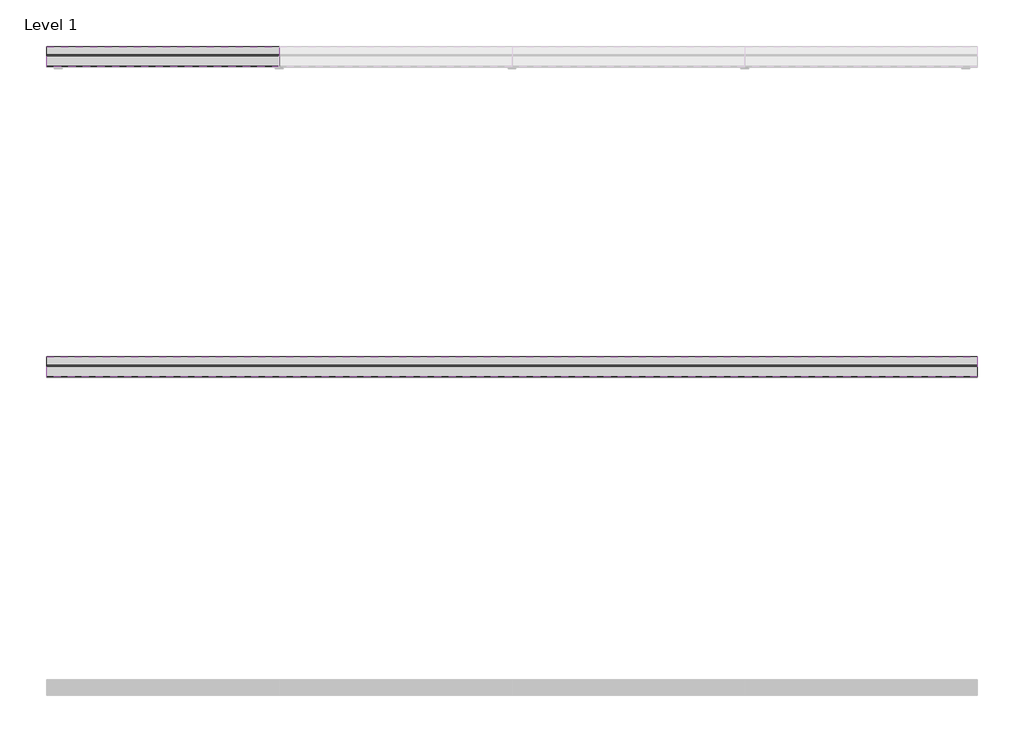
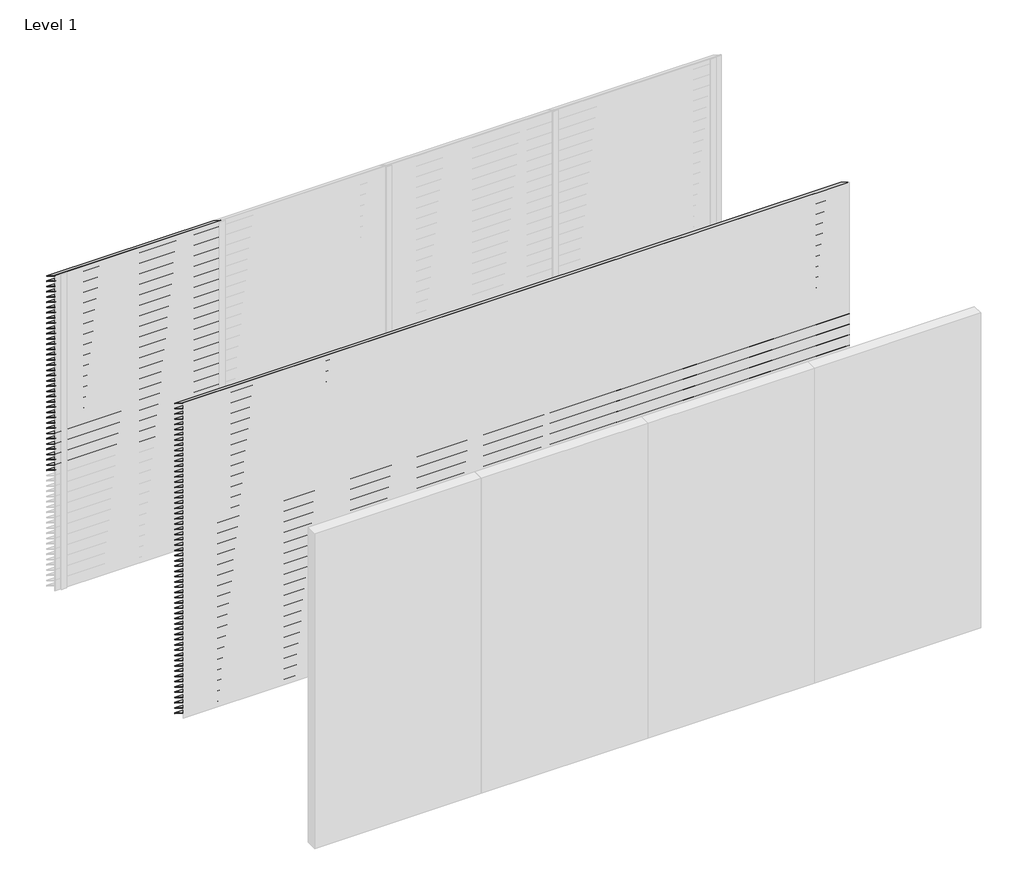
# One storey, part 11 of 13: 98 proxies.
"""IFC4 building model written with IfcOpenShell, lengths in millimetres."""

import ifcopenshell
import ifcopenshell.guid

model = None  # the IFC model being written
_history = None  # IfcOwnerHistory: only IFC2X3 demands one
_inside = {}  # id of a spatial element -> (the spatial element, [elements in it])
_under = {}  # id of a project, library or spatial element -> (it, [spatial elements below it])
_declared = {}  # id of a project -> (the project, [libraries it declares])
_typed = {}  # id of a type object -> (the type object, [elements of that type])
_made_of = {}  # id of a material, layer set ... -> (it, [elements and type objects made of it])


def new_model(schema):
    """Start an empty IFC model of exactly this schema.

    Asked for "IFC4X3", IfcOpenShell would pick the latest addendum, in which some entities
    have other attributes; the version numbers below select the first issue.
    IFC2X3 requires an IfcOwnerHistory on every rooted entity: one is made here for all.
    """
    global model, _history
    if schema == "IFC4X3":
        model = ifcopenshell.file(schema_version=(4, 3, 0, 0))
    else:
        model = ifcopenshell.file(schema=schema)
    _inside.clear()
    _under.clear()
    _declared.clear()
    _typed.clear()
    _made_of.clear()
    _history = None
    if model.schema == "IFC2X3":
        org = make("IfcOrganization", Name="unknown")
        user = make(
            "IfcPersonAndOrganization",
            ThePerson=make("IfcPerson", FamilyName="unknown"),
            TheOrganization=org,
        )
        app = make(
            "IfcApplication",
            ApplicationDeveloper=org,
            Version="unknown",
            ApplicationFullName="unknown",
            ApplicationIdentifier="unknown",
        )
        _history = make(
            "IfcOwnerHistory",
            OwningUser=user,
            OwningApplication=app,
            ChangeAction="ADDED",
            CreationDate=0,
        )
    return model


def make(cls, **values):
    """One entity of the class cls with the attributes given. An attribute that is None is left unset."""
    return model.create_entity(
        cls, **{name: value for name, value in values.items() if value is not None}
    )


def rooted(cls, **values):
    """An entity with a GlobalId (a new one), such as an element, a storey or a relation."""
    return make(cls, GlobalId=ifcopenshell.guid.new(), OwnerHistory=_history, **values)


def si_unit(unit_type, name, prefix=None):
    """IfcSIUnit, for example si_unit("LENGTHUNIT", "METRE", prefix="MILLI")."""
    return make("IfcSIUnit", UnitType=unit_type, Prefix=prefix, Name=name)


def assignment(units):
    """IfcUnitAssignment: the units of a project."""
    return None if units is None else make("IfcUnitAssignment", Units=units)


def point(xyz):
    """IfcCartesianPoint."""
    return None if xyz is None else make("IfcCartesianPoint", Coordinates=xyz)


def direction(xyz):
    """IfcDirection."""
    return None if xyz is None else make("IfcDirection", DirectionRatios=xyz)


def frame(location, z_axis=None, x_axis=None):
    """IfcAxis2Placement3D, a coordinate frame: its origin and axes. An axis left out is left unset."""
    return make(
        "IfcAxis2Placement3D",
        Location=point(location),
        Axis=direction(z_axis),
        RefDirection=direction(x_axis),
    )


def origin():
    """The frame at (0, 0, 0) with its axes left unset."""
    return frame((0.0, 0.0, 0.0))


def place(relative_to, where):
    """IfcLocalPlacement: puts the frame where relative to a parent placement (None: the world)."""
    return make(
        "IfcLocalPlacement", PlacementRelTo=relative_to, RelativePlacement=where
    )


def context(
    kind, dimensions, precision=None, world=None, true_north=None, identifier=None
):
    """IfcGeometricRepresentationContext, for example the 3D "Model" context."""
    return make(
        "IfcGeometricRepresentationContext",
        ContextIdentifier=identifier,
        ContextType=kind,
        CoordinateSpaceDimension=dimensions,
        Precision=precision,
        WorldCoordinateSystem=world,
        TrueNorth=true_north,
    )


def project(units=None, contexts=None):
    """IfcProject with its units and contexts."""
    return rooted(
        "IfcProject",
        Name="project",
        RepresentationContexts=contexts,
        UnitsInContext=assignment(units),
    )


def spatial(cls, under=None, at=None, **own):
    """A site, building, storey or space (cls), placed at a placement, below another one or the project."""
    s = rooted(cls, ObjectPlacement=at, **own)
    if under is not None:
        _under.setdefault(under.id(), (under, []))[1].append(s)
    return s


def polyline(points):
    """IfcPolyline through the points."""
    return make("IfcPolyline", Points=[point(p) for p in points])


def outline(outer, holes=None, kind="AREA"):
    """IfcArbitraryClosedProfileDef: a profile drawn as a closed curve; with holes, ...WithVoids."""
    if holes is None:
        return make("IfcArbitraryClosedProfileDef", ProfileType=kind, OuterCurve=outer)
    return make(
        "IfcArbitraryProfileDefWithVoids",
        ProfileType=kind,
        OuterCurve=outer,
        InnerCurves=holes,
    )


def extrude(swept, where, along, depth):
    """IfcExtrudedAreaSolid: the profile swept, set in the frame where, extruded along a direction by depth."""
    return make(
        "IfcExtrudedAreaSolid",
        SweptArea=swept,
        Position=where,
        ExtrudedDirection=direction(along),
        Depth=depth,
    )


def shape(context_of_items, identifier, shape_type, items):
    """IfcShapeRepresentation: the items that make up one representation, for example the "Body"."""
    return make(
        "IfcShapeRepresentation",
        ContextOfItems=context_of_items,
        RepresentationIdentifier=identifier,
        RepresentationType=shape_type,
        Items=items,
    )


def made_of(thing, what):
    """Note that an element or type object is made of a material, layer set ...; save() writes the relation."""
    if what is not None:
        _made_of.setdefault(what.id(), (what, []))[1].append(thing)
    return thing


def element(
    cls,
    number,
    at=None,
    inside=None,
    cuts=None,
    type_object=None,
    material=None,
    context=None,
    identifier="Body",
    shape_type=None,
    held_by="IfcProductDefinitionShape",
    body=None,
    shapes=None,
    **own,
):
    """One element of the class cls, such as IfcWall. Its Tag is "e" and its number.

    at: its placement. inside: the storey or other place that contains it. cuts: it is an
    opening in that element (IfcRelVoidsElement). A single representation is given by context,
    identifier, shape_type and body (its items); several are given by shapes. held_by: the class
    of the entity that holds the representations. save() writes the other relations.
    """
    e = rooted(cls, Tag="e%d" % number, ObjectPlacement=at, **own)
    if body is not None:
        shapes = [shape(context, identifier, shape_type, body)]
    if shapes is not None:
        e.Representation = make(held_by, Representations=shapes)
    if inside is not None:
        _inside.setdefault(inside.id(), (inside, []))[1].append(e)
    if cuts is not None:
        rooted(
            "IfcRelVoidsElement", RelatingBuildingElement=cuts, RelatedOpeningElement=e
        )
    if type_object is not None:
        _typed.setdefault(type_object.id(), (type_object, []))[1].append(e)
    return made_of(e, material)


def aggregate(whole, parts):
    """IfcRelAggregates: a whole, such as a stair, and the parts it consists of."""
    return rooted("IfcRelAggregates", RelatingObject=whole, RelatedObjects=parts)


def save(model, path):
    """Write the relations noted so far, then the file.

    IfcRelAggregates (storeys below a building ...), IfcRelContainedInSpatialStructure (elements
    in a storey), IfcRelDefinesByType, IfcRelAssociatesMaterial and IfcRelDeclares: one each for
    every whole, place, type object, material and project.
    """
    for whole, parts in _under.values():
        aggregate(whole, parts)
    for where, things in _inside.values():
        rooted(
            "IfcRelContainedInSpatialStructure",
            RelatedElements=things,
            RelatingStructure=where,
        )
    for kind, things in _typed.values():
        rooted("IfcRelDefinesByType", RelatedObjects=things, RelatingType=kind)
    for what, things in _made_of.values():
        rooted("IfcRelAssociatesMaterial", RelatedObjects=things, RelatingMaterial=what)
    for by, libraries in _declared.values():
        rooted("IfcRelDeclares", RelatingContext=by, RelatedDefinitions=libraries)
    model.write(path)


model = new_model("IFC4")

# Units and contexts
model_context = context("Model", 3, world=origin())
ifc_project = project(units=[si_unit("LENGTHUNIT", "METRE", prefix="MILLI")], contexts=[model_context])

# Site, building, storey
site = spatial("IfcSite", under=ifc_project)
building = spatial("IfcBuilding", under=site)
storey = spatial("IfcBuildingStorey", under=building, Name="Level 1", Elevation=0.0)

# Proxies
placement = place(None, origin())
element("IfcBuildingElementProxy", 1, Name="Wall Sweeps", at=placement, inside=storey, context=model_context, shape_type="SweptSolid", body=[
    extrude(outline(polyline([(5.0, 3000.0), (5.0, 2998.0), (132.0, 2919.0), (132.0, 2913.0), (3.0, 2993.2440945), (3.0, 3000.0), (5.0, 3000.0)])), frame((0.0, 0.0, 0.0), z_axis=(1.0, 0.0, 0.0), x_axis=(0.0, 1.0, 0.0)), (0.0, 0.0, 1.0), 1500.0),
])
element("IfcBuildingElementProxy", 2, Name="Wall Sweeps", at=placement, inside=storey, context=model_context, shape_type="SweptSolid", body=[
    extrude(outline(polyline([(5.0, 2950.0), (5.0, 2948.0), (132.0, 2869.0), (132.0, 2863.0), (3.0, 2943.2440945), (3.0, 2950.0), (5.0, 2950.0)])), frame((0.0, 0.0, 0.0), z_axis=(1.0, 0.0, 0.0), x_axis=(0.0, 1.0, 0.0)), (0.0, 0.0, 1.0), 1500.0),
])
element("IfcBuildingElementProxy", 3, Name="Wall Sweeps", at=placement, inside=storey, context=model_context, shape_type="SweptSolid", body=[
    extrude(outline(polyline([(5.0, 2900.0), (5.0, 2898.0), (132.0, 2819.0), (132.0, 2813.0), (3.0, 2893.2440945), (3.0, 2900.0), (5.0, 2900.0)])), frame((0.0, 0.0, 0.0), z_axis=(1.0, 0.0, 0.0), x_axis=(0.0, 1.0, 0.0)), (0.0, 0.0, 1.0), 1500.0),
])
element("IfcBuildingElementProxy", 4, Name="Wall Sweeps", at=placement, inside=storey, context=model_context, shape_type="SweptSolid", body=[
    extrude(outline(polyline([(5.0, 2850.0), (5.0, 2848.0), (132.0, 2769.0), (132.0, 2763.0), (3.0, 2843.2440945), (3.0, 2850.0), (5.0, 2850.0)])), frame((0.0, 0.0, 0.0), z_axis=(1.0, 0.0, 0.0), x_axis=(0.0, 1.0, 0.0)), (0.0, 0.0, 1.0), 1500.0),
])
element("IfcBuildingElementProxy", 5, Name="Wall Sweeps", at=placement, inside=storey, context=model_context, shape_type="SweptSolid", body=[
    extrude(outline(polyline([(5.0, 2800.0), (5.0, 2798.0), (132.0, 2719.0), (132.0, 2713.0), (3.0, 2793.2440945), (3.0, 2800.0), (5.0, 2800.0)])), frame((0.0, 0.0, 0.0), z_axis=(1.0, 0.0, 0.0), x_axis=(0.0, 1.0, 0.0)), (0.0, 0.0, 1.0), 1500.0),
])
element("IfcBuildingElementProxy", 6, Name="Wall Sweeps", at=placement, inside=storey, context=model_context, shape_type="SweptSolid", body=[
    extrude(outline(polyline([(5.0, 2750.0), (5.0, 2748.0), (132.0, 2669.0), (132.0, 2663.0), (3.0, 2743.2440945), (3.0, 2750.0), (5.0, 2750.0)])), frame((0.0, 0.0, 0.0), z_axis=(1.0, 0.0, 0.0), x_axis=(0.0, 1.0, 0.0)), (0.0, 0.0, 1.0), 1500.0),
])
element("IfcBuildingElementProxy", 7, Name="Wall Sweeps", at=placement, inside=storey, context=model_context, shape_type="SweptSolid", body=[
    extrude(outline(polyline([(5.0, 2700.0), (5.0, 2698.0), (132.0, 2619.0), (132.0, 2613.0), (3.0, 2693.2440945), (3.0, 2700.0), (5.0, 2700.0)])), frame((0.0, 0.0, 0.0), z_axis=(1.0, 0.0, 0.0), x_axis=(0.0, 1.0, 0.0)), (0.0, 0.0, 1.0), 1500.0),
])
element("IfcBuildingElementProxy", 8, Name="Wall Sweeps", at=placement, inside=storey, context=model_context, shape_type="SweptSolid", body=[
    extrude(outline(polyline([(5.0, 2650.0), (5.0, 2648.0), (132.0, 2569.0), (132.0, 2563.0), (3.0, 2643.2440945), (3.0, 2650.0), (5.0, 2650.0)])), frame((0.0, 0.0, 0.0), z_axis=(1.0, 0.0, 0.0), x_axis=(0.0, 1.0, 0.0)), (0.0, 0.0, 1.0), 1500.0),
])
element("IfcBuildingElementProxy", 9, Name="Wall Sweeps", at=placement, inside=storey, context=model_context, shape_type="SweptSolid", body=[
    extrude(outline(polyline([(5.0, 2600.0), (5.0, 2598.0), (132.0, 2519.0), (132.0, 2513.0), (3.0, 2593.2440945), (3.0, 2600.0), (5.0, 2600.0)])), frame((0.0, 0.0, 0.0), z_axis=(1.0, 0.0, 0.0), x_axis=(0.0, 1.0, 0.0)), (0.0, 0.0, 1.0), 1500.0),
])
element("IfcBuildingElementProxy", 10, Name="Wall Sweeps", at=placement, inside=storey, context=model_context, shape_type="SweptSolid", body=[
    extrude(outline(polyline([(5.0, 2550.0), (5.0, 2548.0), (132.0, 2469.0), (132.0, 2463.0), (3.0, 2543.2440945), (3.0, 2550.0), (5.0, 2550.0)])), frame((0.0, 0.0, 0.0), z_axis=(1.0, 0.0, 0.0), x_axis=(0.0, 1.0, 0.0)), (0.0, 0.0, 1.0), 1500.0),
])
element("IfcBuildingElementProxy", 11, Name="Wall Sweeps", at=placement, inside=storey, context=model_context, shape_type="SweptSolid", body=[
    extrude(outline(polyline([(5.0, 2500.0), (5.0, 2498.0), (132.0, 2419.0), (132.0, 2413.0), (3.0, 2493.2440945), (3.0, 2500.0), (5.0, 2500.0)])), frame((0.0, 0.0, 0.0), z_axis=(1.0, 0.0, 0.0), x_axis=(0.0, 1.0, 0.0)), (0.0, 0.0, 1.0), 1500.0),
])
element("IfcBuildingElementProxy", 12, Name="Wall Sweeps", at=placement, inside=storey, context=model_context, shape_type="SweptSolid", body=[
    extrude(outline(polyline([(5.0, 2450.0), (5.0, 2448.0), (132.0, 2369.0), (132.0, 2363.0), (3.0, 2443.2440945), (3.0, 2450.0), (5.0, 2450.0)])), frame((0.0, 0.0, 0.0), z_axis=(1.0, 0.0, 0.0), x_axis=(0.0, 1.0, 0.0)), (0.0, 0.0, 1.0), 1500.0),
])
element("IfcBuildingElementProxy", 13, Name="Wall Sweeps", at=placement, inside=storey, context=model_context, shape_type="SweptSolid", body=[
    extrude(outline(polyline([(5.0, 2400.0), (5.0, 2398.0), (132.0, 2319.0), (132.0, 2313.0), (3.0, 2393.2440945), (3.0, 2400.0), (5.0, 2400.0)])), frame((0.0, 0.0, 0.0), z_axis=(1.0, 0.0, 0.0), x_axis=(0.0, 1.0, 0.0)), (0.0, 0.0, 1.0), 1500.0),
])
element("IfcBuildingElementProxy", 14, Name="Wall Sweeps", at=placement, inside=storey, context=model_context, shape_type="SweptSolid", body=[
    extrude(outline(polyline([(5.0, 2350.0), (5.0, 2348.0), (132.0, 2269.0), (132.0, 2263.0), (3.0, 2343.2440945), (3.0, 2350.0), (5.0, 2350.0)])), frame((0.0, 0.0, 0.0), z_axis=(1.0, 0.0, 0.0), x_axis=(0.0, 1.0, 0.0)), (0.0, 0.0, 1.0), 1500.0),
])
element("IfcBuildingElementProxy", 15, Name="Wall Sweeps", at=placement, inside=storey, context=model_context, shape_type="SweptSolid", body=[
    extrude(outline(polyline([(5.0, 2300.0), (5.0, 2298.0), (132.0, 2219.0), (132.0, 2213.0), (3.0, 2293.2440945), (3.0, 2300.0), (5.0, 2300.0)])), frame((0.0, 0.0, 0.0), z_axis=(1.0, 0.0, 0.0), x_axis=(0.0, 1.0, 0.0)), (0.0, 0.0, 1.0), 1500.0),
])
element("IfcBuildingElementProxy", 16, Name="Wall Sweeps", at=placement, inside=storey, context=model_context, shape_type="SweptSolid", body=[
    extrude(outline(polyline([(5.0, 2250.0), (5.0, 2248.0), (132.0, 2169.0), (132.0, 2163.0), (3.0, 2243.2440945), (3.0, 2250.0), (5.0, 2250.0)])), frame((0.0, 0.0, 0.0), z_axis=(1.0, 0.0, 0.0), x_axis=(0.0, 1.0, 0.0)), (0.0, 0.0, 1.0), 1500.0),
])
element("IfcBuildingElementProxy", 17, Name="Wall Sweeps", at=placement, inside=storey, context=model_context, shape_type="SweptSolid", body=[
    extrude(outline(polyline([(5.0, 2200.0), (5.0, 2198.0), (132.0, 2119.0), (132.0, 2113.0), (3.0, 2193.2440945), (3.0, 2200.0), (5.0, 2200.0)])), frame((0.0, 0.0, 0.0), z_axis=(1.0, 0.0, 0.0), x_axis=(0.0, 1.0, 0.0)), (0.0, 0.0, 1.0), 1500.0),
])
element("IfcBuildingElementProxy", 18, Name="Wall Sweeps", at=placement, inside=storey, context=model_context, shape_type="SweptSolid", body=[
    extrude(outline(polyline([(5.0, 2150.0), (5.0, 2148.0), (132.0, 2069.0), (132.0, 2063.0), (3.0, 2143.2440945), (3.0, 2150.0), (5.0, 2150.0)])), frame((0.0, 0.0, 0.0), z_axis=(1.0, 0.0, 0.0), x_axis=(0.0, 1.0, 0.0)), (0.0, 0.0, 1.0), 1500.0),
])
element("IfcBuildingElementProxy", 19, Name="Wall Sweeps", at=placement, inside=storey, context=model_context, shape_type="SweptSolid", body=[
    extrude(outline(polyline([(5.0, 2100.0), (5.0, 2098.0), (132.0, 2019.0), (132.0, 2013.0), (3.0, 2093.2440945), (3.0, 2100.0), (5.0, 2100.0)])), frame((0.0, 0.0, 0.0), z_axis=(1.0, 0.0, 0.0), x_axis=(0.0, 1.0, 0.0)), (0.0, 0.0, 1.0), 1500.0),
])
element("IfcBuildingElementProxy", 20, Name="Wall Sweeps", at=placement, inside=storey, context=model_context, shape_type="SweptSolid", body=[
    extrude(outline(polyline([(5.0, 2050.0), (5.0, 2048.0), (132.0, 1969.0), (132.0, 1963.0), (3.0, 2043.2440945), (3.0, 2050.0), (5.0, 2050.0)])), frame((0.0, 0.0, 0.0), z_axis=(1.0, 0.0, 0.0), x_axis=(0.0, 1.0, 0.0)), (0.0, 0.0, 1.0), 1500.0),
])
element("IfcBuildingElementProxy", 21, Name="Wall Sweeps", at=placement, inside=storey, context=model_context, shape_type="SweptSolid", body=[
    extrude(outline(polyline([(5.0, 2000.0), (5.0, 1998.0), (132.0, 1919.0), (132.0, 1913.0), (3.0, 1993.2440945), (3.0, 2000.0), (5.0, 2000.0)])), frame((0.0, 0.0, 0.0), z_axis=(1.0, 0.0, 0.0), x_axis=(0.0, 1.0, 0.0)), (0.0, 0.0, 1.0), 1500.0),
])
element("IfcBuildingElementProxy", 22, Name="Wall Sweeps", at=placement, inside=storey, context=model_context, shape_type="SweptSolid", body=[
    extrude(outline(polyline([(5.0, 1950.0), (5.0, 1948.0), (132.0, 1869.0), (132.0, 1863.0), (3.0, 1943.2440945), (3.0, 1950.0), (5.0, 1950.0)])), frame((0.0, 0.0, 0.0), z_axis=(1.0, 0.0, 0.0), x_axis=(0.0, 1.0, 0.0)), (0.0, 0.0, 1.0), 1500.0),
])
element("IfcBuildingElementProxy", 23, Name="Wall Sweeps", at=placement, inside=storey, context=model_context, shape_type="SweptSolid", body=[
    extrude(outline(polyline([(5.0, 1900.0), (5.0, 1898.0), (132.0, 1819.0), (132.0, 1813.0), (3.0, 1893.2440945), (3.0, 1900.0), (5.0, 1900.0)])), frame((0.0, 0.0, 0.0), z_axis=(1.0, 0.0, 0.0), x_axis=(0.0, 1.0, 0.0)), (0.0, 0.0, 1.0), 1500.0),
])
element("IfcBuildingElementProxy", 24, Name="Wall Sweeps", at=placement, inside=storey, context=model_context, shape_type="SweptSolid", body=[
    extrude(outline(polyline([(5.0, 1850.0), (5.0, 1848.0), (132.0, 1769.0), (132.0, 1763.0), (3.0, 1843.2440945), (3.0, 1850.0), (5.0, 1850.0)])), frame((0.0, 0.0, 0.0), z_axis=(1.0, 0.0, 0.0), x_axis=(0.0, 1.0, 0.0)), (0.0, 0.0, 1.0), 1500.0),
])
element("IfcBuildingElementProxy", 25, Name="Wall Sweeps", at=placement, inside=storey, context=model_context, shape_type="SweptSolid", body=[
    extrude(outline(polyline([(5.0, 1800.0), (5.0, 1798.0), (132.0, 1719.0), (132.0, 1713.0), (3.0, 1793.2440945), (3.0, 1800.0), (5.0, 1800.0)])), frame((0.0, 0.0, 0.0), z_axis=(1.0, 0.0, 0.0), x_axis=(0.0, 1.0, 0.0)), (0.0, 0.0, 1.0), 1500.0),
])
element("IfcBuildingElementProxy", 26, Name="Wall Sweeps", at=placement, inside=storey, context=model_context, shape_type="SweptSolid", body=[
    extrude(outline(polyline([(5.0, 1750.0), (5.0, 1748.0), (132.0, 1669.0), (132.0, 1663.0), (3.0, 1743.2440945), (3.0, 1750.0), (5.0, 1750.0)])), frame((0.0, 0.0, 0.0), z_axis=(1.0, 0.0, 0.0), x_axis=(0.0, 1.0, 0.0)), (0.0, 0.0, 1.0), 1500.0),
])
element("IfcBuildingElementProxy", 27, Name="Wall Sweeps", at=placement, inside=storey, context=model_context, shape_type="SweptSolid", body=[
    extrude(outline(polyline([(5.0, 1700.0), (5.0, 1698.0), (132.0, 1619.0), (132.0, 1613.0), (3.0, 1693.2440945), (3.0, 1700.0), (5.0, 1700.0)])), frame((0.0, 0.0, 0.0), z_axis=(1.0, 0.0, 0.0), x_axis=(0.0, 1.0, 0.0)), (0.0, 0.0, 1.0), 1500.0),
])
element("IfcBuildingElementProxy", 28, Name="Wall Sweeps", at=placement, inside=storey, context=model_context, shape_type="SweptSolid", body=[
    extrude(outline(polyline([(5.0, 1650.0), (5.0, 1648.0), (132.0, 1569.0), (132.0, 1563.0), (3.0, 1643.2440945), (3.0, 1650.0), (5.0, 1650.0)])), frame((0.0, 0.0, 0.0), z_axis=(1.0, 0.0, 0.0), x_axis=(0.0, 1.0, 0.0)), (0.0, 0.0, 1.0), 1500.0),
])
element("IfcBuildingElementProxy", 29, Name="Wall Sweeps", at=placement, inside=storey, context=model_context, shape_type="SweptSolid", body=[
    extrude(outline(polyline([(5.0, 1600.0), (5.0, 1598.0), (132.0, 1519.0), (132.0, 1513.0), (3.0, 1593.2440945), (3.0, 1600.0), (5.0, 1600.0)])), frame((0.0, 0.0, 0.0), z_axis=(1.0, 0.0, 0.0), x_axis=(0.0, 1.0, 0.0)), (0.0, 0.0, 1.0), 1500.0),
])
element("IfcBuildingElementProxy", 30, Name="Wall Sweeps", at=placement, inside=storey, context=model_context, shape_type="SweptSolid", body=[
    extrude(outline(polyline([(5.0, 1550.0), (5.0, 1548.0), (132.0, 1469.0), (132.0, 1463.0), (3.0, 1543.2440945), (3.0, 1550.0), (5.0, 1550.0)])), frame((0.0, 0.0, 0.0), z_axis=(1.0, 0.0, 0.0), x_axis=(0.0, 1.0, 0.0)), (0.0, 0.0, 1.0), 1500.0),
])
element("IfcBuildingElementProxy", 31, Name="Wall Sweeps", at=placement, inside=storey, context=model_context, shape_type="SweptSolid", body=[
    extrude(outline(polyline([(5.0, 1500.0), (5.0, 1498.0), (132.0, 1419.0), (132.0, 1413.0), (3.0, 1493.2440945), (3.0, 1500.0), (5.0, 1500.0)])), frame((0.0, 0.0, 0.0), z_axis=(1.0, 0.0, 0.0), x_axis=(0.0, 1.0, 0.0)), (0.0, 0.0, 1.0), 1500.0),
])
element("IfcBuildingElementProxy", 32, Name="Wall Sweeps", at=placement, inside=storey, context=model_context, shape_type="SweptSolid", body=[
    extrude(outline(polyline([(5.0, 1450.0), (5.0, 1448.0), (132.0, 1369.0), (132.0, 1363.0), (3.0, 1443.2440945), (3.0, 1450.0), (5.0, 1450.0)])), frame((0.0, 0.0, 0.0), z_axis=(1.0, 0.0, 0.0), x_axis=(0.0, 1.0, 0.0)), (0.0, 0.0, 1.0), 1500.0),
])
element("IfcBuildingElementProxy", 33, Name="Wall Sweeps", at=placement, inside=storey, context=model_context, shape_type="SweptSolid", body=[
    extrude(outline(polyline([(5.0, 1400.0), (5.0, 1398.0), (132.0, 1319.0), (132.0, 1313.0), (3.0, 1393.2440945), (3.0, 1400.0), (5.0, 1400.0)])), frame((0.0, 0.0, 0.0), z_axis=(1.0, 0.0, 0.0), x_axis=(0.0, 1.0, 0.0)), (0.0, 0.0, 1.0), 1500.0),
])
element("IfcBuildingElementProxy", 34, Name="Wall Sweeps", at=placement, inside=storey, context=model_context, shape_type="SweptSolid", body=[
    extrude(outline(polyline([(5.0, 1350.0), (5.0, 1348.0), (132.0, 1269.0), (132.0, 1263.0), (3.0, 1343.2440945), (3.0, 1350.0), (5.0, 1350.0)])), frame((0.0, 0.0, 0.0), z_axis=(1.0, 0.0, 0.0), x_axis=(0.0, 1.0, 0.0)), (0.0, 0.0, 1.0), 1500.0),
])
element("IfcBuildingElementProxy", 35, Name="Wall Sweeps", at=placement, inside=storey, context=model_context, shape_type="SweptSolid", body=[
    extrude(outline(polyline([(5.0, 1300.0), (5.0, 1298.0), (132.0, 1219.0), (132.0, 1213.0), (3.0, 1293.2440945), (3.0, 1300.0), (5.0, 1300.0)])), frame((0.0, 0.0, 0.0), z_axis=(1.0, 0.0, 0.0), x_axis=(0.0, 1.0, 0.0)), (0.0, 0.0, 1.0), 1500.0),
])
element("IfcBuildingElementProxy", 36, Name="Wall Sweeps", at=placement, inside=storey, context=model_context, shape_type="SweptSolid", body=[
    extrude(outline(polyline([(5.0, 1250.0), (5.0, 1248.0), (132.0, 1169.0), (132.0, 1163.0), (3.0, 1243.2440945), (3.0, 1250.0), (5.0, 1250.0)])), frame((0.0, 0.0, 0.0), z_axis=(1.0, 0.0, 0.0), x_axis=(0.0, 1.0, 0.0)), (0.0, 0.0, 1.0), 1500.0),
])
element("IfcBuildingElementProxy", 37, Name="Wall Sweeps", at=placement, inside=storey, context=model_context, shape_type="SweptSolid", body=[
    extrude(outline(polyline([(5.0, 1200.0), (5.0, 1198.0), (132.0, 1119.0), (132.0, 1113.0), (3.0, 1193.2440945), (3.0, 1200.0), (5.0, 1200.0)])), frame((0.0, 0.0, 0.0), z_axis=(1.0, 0.0, 0.0), x_axis=(0.0, 1.0, 0.0)), (0.0, 0.0, 1.0), 1500.0),
])
element("IfcBuildingElementProxy", 38, Name="Wall Sweeps", at=placement, inside=storey, context=model_context, shape_type="SweptSolid", body=[
    extrude(outline(polyline([(5.0, 1150.0), (5.0, 1148.0), (132.0, 1069.0), (132.0, 1063.0), (3.0, 1143.2440945), (3.0, 1150.0), (5.0, 1150.0)])), frame((0.0, 0.0, 0.0), z_axis=(1.0, 0.0, 0.0), x_axis=(0.0, 1.0, 0.0)), (0.0, 0.0, 1.0), 1500.0),
])
element("IfcBuildingElementProxy", 39, Name="Wall Sweeps", at=placement, inside=storey, context=model_context, shape_type="SweptSolid", body=[
    extrude(outline(polyline([(-1995.0, 3000.0), (-1995.0, 2998.0), (-1868.0, 2919.0), (-1868.0, 2913.0), (-1997.0, 2993.2440945), (-1997.0, 3000.0), (-1995.0, 3000.0)])), frame((0.0, 0.0, 0.0), z_axis=(1.0, 0.0, 0.0), x_axis=(0.0, 1.0, 0.0)), (0.0, 0.0, 1.0), 6000.0),
])
element("IfcBuildingElementProxy", 40, Name="Wall Sweeps", at=placement, inside=storey, context=model_context, shape_type="SweptSolid", body=[
    extrude(outline(polyline([(-1995.0, 2950.0), (-1995.0, 2948.0), (-1868.0, 2869.0), (-1868.0, 2863.0), (-1997.0, 2943.2440945), (-1997.0, 2950.0), (-1995.0, 2950.0)])), frame((0.0, 0.0, 0.0), z_axis=(1.0, 0.0, 0.0), x_axis=(0.0, 1.0, 0.0)), (0.0, 0.0, 1.0), 6000.0),
])
element("IfcBuildingElementProxy", 41, Name="Wall Sweeps", at=placement, inside=storey, context=model_context, shape_type="SweptSolid", body=[
    extrude(outline(polyline([(-1995.0, 2900.0), (-1995.0, 2898.0), (-1868.0, 2819.0), (-1868.0, 2813.0), (-1997.0, 2893.2440945), (-1997.0, 2900.0), (-1995.0, 2900.0)])), frame((0.0, 0.0, 0.0), z_axis=(1.0, 0.0, 0.0), x_axis=(0.0, 1.0, 0.0)), (0.0, 0.0, 1.0), 6000.0),
])
element("IfcBuildingElementProxy", 42, Name="Wall Sweeps", at=placement, inside=storey, context=model_context, shape_type="SweptSolid", body=[
    extrude(outline(polyline([(-1995.0, 2850.0), (-1995.0, 2848.0), (-1868.0, 2769.0), (-1868.0, 2763.0), (-1997.0, 2843.2440945), (-1997.0, 2850.0), (-1995.0, 2850.0)])), frame((0.0, 0.0, 0.0), z_axis=(1.0, 0.0, 0.0), x_axis=(0.0, 1.0, 0.0)), (0.0, 0.0, 1.0), 6000.0),
])
element("IfcBuildingElementProxy", 43, Name="Wall Sweeps", at=placement, inside=storey, context=model_context, shape_type="SweptSolid", body=[
    extrude(outline(polyline([(-1995.0, 2800.0), (-1995.0, 2798.0), (-1868.0, 2719.0), (-1868.0, 2713.0), (-1997.0, 2793.2440945), (-1997.0, 2800.0), (-1995.0, 2800.0)])), frame((0.0, 0.0, 0.0), z_axis=(1.0, 0.0, 0.0), x_axis=(0.0, 1.0, 0.0)), (0.0, 0.0, 1.0), 6000.0),
])
element("IfcBuildingElementProxy", 44, Name="Wall Sweeps", at=placement, inside=storey, context=model_context, shape_type="SweptSolid", body=[
    extrude(outline(polyline([(-1995.0, 2750.0), (-1995.0, 2748.0), (-1868.0, 2669.0), (-1868.0, 2663.0), (-1997.0, 2743.2440945), (-1997.0, 2750.0), (-1995.0, 2750.0)])), frame((0.0, 0.0, 0.0), z_axis=(1.0, 0.0, 0.0), x_axis=(0.0, 1.0, 0.0)), (0.0, 0.0, 1.0), 6000.0),
])
element("IfcBuildingElementProxy", 45, Name="Wall Sweeps", at=placement, inside=storey, context=model_context, shape_type="SweptSolid", body=[
    extrude(outline(polyline([(-1995.0, 2700.0), (-1995.0, 2698.0), (-1868.0, 2619.0), (-1868.0, 2613.0), (-1997.0, 2693.2440945), (-1997.0, 2700.0), (-1995.0, 2700.0)])), frame((0.0, 0.0, 0.0), z_axis=(1.0, 0.0, 0.0), x_axis=(0.0, 1.0, 0.0)), (0.0, 0.0, 1.0), 6000.0),
])
element("IfcBuildingElementProxy", 46, Name="Wall Sweeps", at=placement, inside=storey, context=model_context, shape_type="SweptSolid", body=[
    extrude(outline(polyline([(-1995.0, 2650.0), (-1995.0, 2648.0), (-1868.0, 2569.0), (-1868.0, 2563.0), (-1997.0, 2643.2440945), (-1997.0, 2650.0), (-1995.0, 2650.0)])), frame((0.0, 0.0, 0.0), z_axis=(1.0, 0.0, 0.0), x_axis=(0.0, 1.0, 0.0)), (0.0, 0.0, 1.0), 6000.0),
])
element("IfcBuildingElementProxy", 47, Name="Wall Sweeps", at=placement, inside=storey, context=model_context, shape_type="SweptSolid", body=[
    extrude(outline(polyline([(-1995.0, 2600.0), (-1995.0, 2598.0), (-1868.0, 2519.0), (-1868.0, 2513.0), (-1997.0, 2593.2440945), (-1997.0, 2600.0), (-1995.0, 2600.0)])), frame((0.0, 0.0, 0.0), z_axis=(1.0, 0.0, 0.0), x_axis=(0.0, 1.0, 0.0)), (0.0, 0.0, 1.0), 6000.0),
])
element("IfcBuildingElementProxy", 48, Name="Wall Sweeps", at=placement, inside=storey, context=model_context, shape_type="SweptSolid", body=[
    extrude(outline(polyline([(-1995.0, 2550.0), (-1995.0, 2548.0), (-1868.0, 2469.0), (-1868.0, 2463.0), (-1997.0, 2543.2440945), (-1997.0, 2550.0), (-1995.0, 2550.0)])), frame((0.0, 0.0, 0.0), z_axis=(1.0, 0.0, 0.0), x_axis=(0.0, 1.0, 0.0)), (0.0, 0.0, 1.0), 6000.0),
])
element("IfcBuildingElementProxy", 49, Name="Wall Sweeps", at=placement, inside=storey, context=model_context, shape_type="SweptSolid", body=[
    extrude(outline(polyline([(-1995.0, 2500.0), (-1995.0, 2498.0), (-1868.0, 2419.0), (-1868.0, 2413.0), (-1997.0, 2493.2440945), (-1997.0, 2500.0), (-1995.0, 2500.0)])), frame((0.0, 0.0, 0.0), z_axis=(1.0, 0.0, 0.0), x_axis=(0.0, 1.0, 0.0)), (0.0, 0.0, 1.0), 6000.0),
])
element("IfcBuildingElementProxy", 50, Name="Wall Sweeps", at=placement, inside=storey, context=model_context, shape_type="SweptSolid", body=[
    extrude(outline(polyline([(-1995.0, 2450.0), (-1995.0, 2448.0), (-1868.0, 2369.0), (-1868.0, 2363.0), (-1997.0, 2443.2440945), (-1997.0, 2450.0), (-1995.0, 2450.0)])), frame((0.0, 0.0, 0.0), z_axis=(1.0, 0.0, 0.0), x_axis=(0.0, 1.0, 0.0)), (0.0, 0.0, 1.0), 6000.0),
])
element("IfcBuildingElementProxy", 51, Name="Wall Sweeps", at=placement, inside=storey, context=model_context, shape_type="SweptSolid", body=[
    extrude(outline(polyline([(-1995.0, 2400.0), (-1995.0, 2398.0), (-1868.0, 2319.0), (-1868.0, 2313.0), (-1997.0, 2393.2440945), (-1997.0, 2400.0), (-1995.0, 2400.0)])), frame((0.0, 0.0, 0.0), z_axis=(1.0, 0.0, 0.0), x_axis=(0.0, 1.0, 0.0)), (0.0, 0.0, 1.0), 6000.0),
])
element("IfcBuildingElementProxy", 52, Name="Wall Sweeps", at=placement, inside=storey, context=model_context, shape_type="SweptSolid", body=[
    extrude(outline(polyline([(-1995.0, 2350.0), (-1995.0, 2348.0), (-1868.0, 2269.0), (-1868.0, 2263.0), (-1997.0, 2343.2440945), (-1997.0, 2350.0), (-1995.0, 2350.0)])), frame((0.0, 0.0, 0.0), z_axis=(1.0, 0.0, 0.0), x_axis=(0.0, 1.0, 0.0)), (0.0, 0.0, 1.0), 6000.0),
])
element("IfcBuildingElementProxy", 53, Name="Wall Sweeps", at=placement, inside=storey, context=model_context, shape_type="SweptSolid", body=[
    extrude(outline(polyline([(-1995.0, 2300.0), (-1995.0, 2298.0), (-1868.0, 2219.0), (-1868.0, 2213.0), (-1997.0, 2293.2440945), (-1997.0, 2300.0), (-1995.0, 2300.0)])), frame((0.0, 0.0, 0.0), z_axis=(1.0, 0.0, 0.0), x_axis=(0.0, 1.0, 0.0)), (0.0, 0.0, 1.0), 6000.0),
])
element("IfcBuildingElementProxy", 54, Name="Wall Sweeps", at=placement, inside=storey, context=model_context, shape_type="SweptSolid", body=[
    extrude(outline(polyline([(-1995.0, 2250.0), (-1995.0, 2248.0), (-1868.0, 2169.0), (-1868.0, 2163.0), (-1997.0, 2243.2440945), (-1997.0, 2250.0), (-1995.0, 2250.0)])), frame((0.0, 0.0, 0.0), z_axis=(1.0, 0.0, 0.0), x_axis=(0.0, 1.0, 0.0)), (0.0, 0.0, 1.0), 6000.0),
])
element("IfcBuildingElementProxy", 55, Name="Wall Sweeps", at=placement, inside=storey, context=model_context, shape_type="SweptSolid", body=[
    extrude(outline(polyline([(-1995.0, 2200.0), (-1995.0, 2198.0), (-1868.0, 2119.0), (-1868.0, 2113.0), (-1997.0, 2193.2440945), (-1997.0, 2200.0), (-1995.0, 2200.0)])), frame((0.0, 0.0, 0.0), z_axis=(1.0, 0.0, 0.0), x_axis=(0.0, 1.0, 0.0)), (0.0, 0.0, 1.0), 6000.0),
])
element("IfcBuildingElementProxy", 56, Name="Wall Sweeps", at=placement, inside=storey, context=model_context, shape_type="SweptSolid", body=[
    extrude(outline(polyline([(-1995.0, 2150.0), (-1995.0, 2148.0), (-1868.0, 2069.0), (-1868.0, 2063.0), (-1997.0, 2143.2440945), (-1997.0, 2150.0), (-1995.0, 2150.0)])), frame((0.0, 0.0, 0.0), z_axis=(1.0, 0.0, 0.0), x_axis=(0.0, 1.0, 0.0)), (0.0, 0.0, 1.0), 6000.0),
])
element("IfcBuildingElementProxy", 57, Name="Wall Sweeps", at=placement, inside=storey, context=model_context, shape_type="SweptSolid", body=[
    extrude(outline(polyline([(-1995.0, 2100.0), (-1995.0, 2098.0), (-1868.0, 2019.0), (-1868.0, 2013.0), (-1997.0, 2093.2440945), (-1997.0, 2100.0), (-1995.0, 2100.0)])), frame((0.0, 0.0, 0.0), z_axis=(1.0, 0.0, 0.0), x_axis=(0.0, 1.0, 0.0)), (0.0, 0.0, 1.0), 6000.0),
])
element("IfcBuildingElementProxy", 58, Name="Wall Sweeps", at=placement, inside=storey, context=model_context, shape_type="SweptSolid", body=[
    extrude(outline(polyline([(-1995.0, 2050.0), (-1995.0, 2048.0), (-1868.0, 1969.0), (-1868.0, 1963.0), (-1997.0, 2043.2440945), (-1997.0, 2050.0), (-1995.0, 2050.0)])), frame((0.0, 0.0, 0.0), z_axis=(1.0, 0.0, 0.0), x_axis=(0.0, 1.0, 0.0)), (0.0, 0.0, 1.0), 6000.0),
])
element("IfcBuildingElementProxy", 59, Name="Wall Sweeps", at=placement, inside=storey, context=model_context, shape_type="SweptSolid", body=[
    extrude(outline(polyline([(-1995.0, 2000.0), (-1995.0, 1998.0), (-1868.0, 1919.0), (-1868.0, 1913.0), (-1997.0, 1993.2440945), (-1997.0, 2000.0), (-1995.0, 2000.0)])), frame((0.0, 0.0, 0.0), z_axis=(1.0, 0.0, 0.0), x_axis=(0.0, 1.0, 0.0)), (0.0, 0.0, 1.0), 6000.0),
])
element("IfcBuildingElementProxy", 60, Name="Wall Sweeps", at=placement, inside=storey, context=model_context, shape_type="SweptSolid", body=[
    extrude(outline(polyline([(-1995.0, 1950.0), (-1995.0, 1948.0), (-1868.0, 1869.0), (-1868.0, 1863.0), (-1997.0, 1943.2440945), (-1997.0, 1950.0), (-1995.0, 1950.0)])), frame((0.0, 0.0, 0.0), z_axis=(1.0, 0.0, 0.0), x_axis=(0.0, 1.0, 0.0)), (0.0, 0.0, 1.0), 6000.0),
])
element("IfcBuildingElementProxy", 61, Name="Wall Sweeps", at=placement, inside=storey, context=model_context, shape_type="SweptSolid", body=[
    extrude(outline(polyline([(-1995.0, 1900.0), (-1995.0, 1898.0), (-1868.0, 1819.0), (-1868.0, 1813.0), (-1997.0, 1893.2440945), (-1997.0, 1900.0), (-1995.0, 1900.0)])), frame((0.0, 0.0, 0.0), z_axis=(1.0, 0.0, 0.0), x_axis=(0.0, 1.0, 0.0)), (0.0, 0.0, 1.0), 6000.0),
])
element("IfcBuildingElementProxy", 62, Name="Wall Sweeps", at=placement, inside=storey, context=model_context, shape_type="SweptSolid", body=[
    extrude(outline(polyline([(-1995.0, 1850.0), (-1995.0, 1848.0), (-1868.0, 1769.0), (-1868.0, 1763.0), (-1997.0, 1843.2440945), (-1997.0, 1850.0), (-1995.0, 1850.0)])), frame((0.0, 0.0, 0.0), z_axis=(1.0, 0.0, 0.0), x_axis=(0.0, 1.0, 0.0)), (0.0, 0.0, 1.0), 6000.0),
])
element("IfcBuildingElementProxy", 63, Name="Wall Sweeps", at=placement, inside=storey, context=model_context, shape_type="SweptSolid", body=[
    extrude(outline(polyline([(-1995.0, 1800.0), (-1995.0, 1798.0), (-1868.0, 1719.0), (-1868.0, 1713.0), (-1997.0, 1793.2440945), (-1997.0, 1800.0), (-1995.0, 1800.0)])), frame((0.0, 0.0, 0.0), z_axis=(1.0, 0.0, 0.0), x_axis=(0.0, 1.0, 0.0)), (0.0, 0.0, 1.0), 6000.0),
])
element("IfcBuildingElementProxy", 64, Name="Wall Sweeps", at=placement, inside=storey, context=model_context, shape_type="SweptSolid", body=[
    extrude(outline(polyline([(-1995.0, 1750.0), (-1995.0, 1748.0), (-1868.0, 1669.0), (-1868.0, 1663.0), (-1997.0, 1743.2440945), (-1997.0, 1750.0), (-1995.0, 1750.0)])), frame((0.0, 0.0, 0.0), z_axis=(1.0, 0.0, 0.0), x_axis=(0.0, 1.0, 0.0)), (0.0, 0.0, 1.0), 6000.0),
])
element("IfcBuildingElementProxy", 65, Name="Wall Sweeps", at=placement, inside=storey, context=model_context, shape_type="SweptSolid", body=[
    extrude(outline(polyline([(-1995.0, 1700.0), (-1995.0, 1698.0), (-1868.0, 1619.0), (-1868.0, 1613.0), (-1997.0, 1693.2440945), (-1997.0, 1700.0), (-1995.0, 1700.0)])), frame((0.0, 0.0, 0.0), z_axis=(1.0, 0.0, 0.0), x_axis=(0.0, 1.0, 0.0)), (0.0, 0.0, 1.0), 6000.0),
])
element("IfcBuildingElementProxy", 66, Name="Wall Sweeps", at=placement, inside=storey, context=model_context, shape_type="SweptSolid", body=[
    extrude(outline(polyline([(-1995.0, 1650.0), (-1995.0, 1648.0), (-1868.0, 1569.0), (-1868.0, 1563.0), (-1997.0, 1643.2440945), (-1997.0, 1650.0), (-1995.0, 1650.0)])), frame((0.0, 0.0, 0.0), z_axis=(1.0, 0.0, 0.0), x_axis=(0.0, 1.0, 0.0)), (0.0, 0.0, 1.0), 6000.0),
])
element("IfcBuildingElementProxy", 67, Name="Wall Sweeps", at=placement, inside=storey, context=model_context, shape_type="SweptSolid", body=[
    extrude(outline(polyline([(-1995.0, 1600.0), (-1995.0, 1598.0), (-1868.0, 1519.0), (-1868.0, 1513.0), (-1997.0, 1593.2440945), (-1997.0, 1600.0), (-1995.0, 1600.0)])), frame((0.0, 0.0, 0.0), z_axis=(1.0, 0.0, 0.0), x_axis=(0.0, 1.0, 0.0)), (0.0, 0.0, 1.0), 6000.0),
])
element("IfcBuildingElementProxy", 68, Name="Wall Sweeps", at=placement, inside=storey, context=model_context, shape_type="SweptSolid", body=[
    extrude(outline(polyline([(-1995.0, 1550.0), (-1995.0, 1548.0), (-1868.0, 1469.0), (-1868.0, 1463.0), (-1997.0, 1543.2440945), (-1997.0, 1550.0), (-1995.0, 1550.0)])), frame((0.0, 0.0, 0.0), z_axis=(1.0, 0.0, 0.0), x_axis=(0.0, 1.0, 0.0)), (0.0, 0.0, 1.0), 6000.0),
])
element("IfcBuildingElementProxy", 69, Name="Wall Sweeps", at=placement, inside=storey, context=model_context, shape_type="SweptSolid", body=[
    extrude(outline(polyline([(-1995.0, 1500.0), (-1995.0, 1498.0), (-1868.0, 1419.0), (-1868.0, 1413.0), (-1997.0, 1493.2440945), (-1997.0, 1500.0), (-1995.0, 1500.0)])), frame((0.0, 0.0, 0.0), z_axis=(1.0, 0.0, 0.0), x_axis=(0.0, 1.0, 0.0)), (0.0, 0.0, 1.0), 6000.0),
])
element("IfcBuildingElementProxy", 70, Name="Wall Sweeps", at=placement, inside=storey, context=model_context, shape_type="SweptSolid", body=[
    extrude(outline(polyline([(-1995.0, 1450.0), (-1995.0, 1448.0), (-1868.0, 1369.0), (-1868.0, 1363.0), (-1997.0, 1443.2440945), (-1997.0, 1450.0), (-1995.0, 1450.0)])), frame((0.0, 0.0, 0.0), z_axis=(1.0, 0.0, 0.0), x_axis=(0.0, 1.0, 0.0)), (0.0, 0.0, 1.0), 6000.0),
])
element("IfcBuildingElementProxy", 71, Name="Wall Sweeps", at=placement, inside=storey, context=model_context, shape_type="SweptSolid", body=[
    extrude(outline(polyline([(-1995.0, 1400.0), (-1995.0, 1398.0), (-1868.0, 1319.0), (-1868.0, 1313.0), (-1997.0, 1393.2440945), (-1997.0, 1400.0), (-1995.0, 1400.0)])), frame((0.0, 0.0, 0.0), z_axis=(1.0, 0.0, 0.0), x_axis=(0.0, 1.0, 0.0)), (0.0, 0.0, 1.0), 6000.0),
])
element("IfcBuildingElementProxy", 72, Name="Wall Sweeps", at=placement, inside=storey, context=model_context, shape_type="SweptSolid", body=[
    extrude(outline(polyline([(-1995.0, 1350.0), (-1995.0, 1348.0), (-1868.0, 1269.0), (-1868.0, 1263.0), (-1997.0, 1343.2440945), (-1997.0, 1350.0), (-1995.0, 1350.0)])), frame((0.0, 0.0, 0.0), z_axis=(1.0, 0.0, 0.0), x_axis=(0.0, 1.0, 0.0)), (0.0, 0.0, 1.0), 6000.0),
])
element("IfcBuildingElementProxy", 73, Name="Wall Sweeps", at=placement, inside=storey, context=model_context, shape_type="SweptSolid", body=[
    extrude(outline(polyline([(-1995.0, 1300.0), (-1995.0, 1298.0), (-1868.0, 1219.0), (-1868.0, 1213.0), (-1997.0, 1293.2440945), (-1997.0, 1300.0), (-1995.0, 1300.0)])), frame((0.0, 0.0, 0.0), z_axis=(1.0, 0.0, 0.0), x_axis=(0.0, 1.0, 0.0)), (0.0, 0.0, 1.0), 6000.0),
])
element("IfcBuildingElementProxy", 74, Name="Wall Sweeps", at=placement, inside=storey, context=model_context, shape_type="SweptSolid", body=[
    extrude(outline(polyline([(-1995.0, 1250.0), (-1995.0, 1248.0), (-1868.0, 1169.0), (-1868.0, 1163.0), (-1997.0, 1243.2440945), (-1997.0, 1250.0), (-1995.0, 1250.0)])), frame((0.0, 0.0, 0.0), z_axis=(1.0, 0.0, 0.0), x_axis=(0.0, 1.0, 0.0)), (0.0, 0.0, 1.0), 6000.0),
])
element("IfcBuildingElementProxy", 75, Name="Wall Sweeps", at=placement, inside=storey, context=model_context, shape_type="SweptSolid", body=[
    extrude(outline(polyline([(-1995.0, 1200.0), (-1995.0, 1198.0), (-1868.0, 1119.0), (-1868.0, 1113.0), (-1997.0, 1193.2440945), (-1997.0, 1200.0), (-1995.0, 1200.0)])), frame((0.0, 0.0, 0.0), z_axis=(1.0, 0.0, 0.0), x_axis=(0.0, 1.0, 0.0)), (0.0, 0.0, 1.0), 6000.0),
])
element("IfcBuildingElementProxy", 76, Name="Wall Sweeps", at=placement, inside=storey, context=model_context, shape_type="SweptSolid", body=[
    extrude(outline(polyline([(-1995.0, 1150.0), (-1995.0, 1148.0), (-1868.0, 1069.0), (-1868.0, 1063.0), (-1997.0, 1143.2440945), (-1997.0, 1150.0), (-1995.0, 1150.0)])), frame((0.0, 0.0, 0.0), z_axis=(1.0, 0.0, 0.0), x_axis=(0.0, 1.0, 0.0)), (0.0, 0.0, 1.0), 6000.0),
])
element("IfcBuildingElementProxy", 77, Name="Wall Sweeps", at=placement, inside=storey, context=model_context, shape_type="SweptSolid", body=[
    extrude(outline(polyline([(-1995.0, 1100.0), (-1995.0, 1098.0), (-1868.0, 1019.0), (-1868.0, 1013.0), (-1997.0, 1093.2440945), (-1997.0, 1100.0), (-1995.0, 1100.0)])), frame((0.0, 0.0, 0.0), z_axis=(1.0, 0.0, 0.0), x_axis=(0.0, 1.0, 0.0)), (0.0, 0.0, 1.0), 6000.0),
])
element("IfcBuildingElementProxy", 78, Name="Wall Sweeps", at=placement, inside=storey, context=model_context, shape_type="SweptSolid", body=[
    extrude(outline(polyline([(-1995.0, 1050.0), (-1995.0, 1048.0), (-1868.0, 969.0), (-1868.0, 963.0), (-1997.0, 1043.2440945), (-1997.0, 1050.0), (-1995.0, 1050.0)])), frame((0.0, 0.0, 0.0), z_axis=(1.0, 0.0, 0.0), x_axis=(0.0, 1.0, 0.0)), (0.0, 0.0, 1.0), 6000.0),
])
element("IfcBuildingElementProxy", 79, Name="Wall Sweeps", at=placement, inside=storey, context=model_context, shape_type="SweptSolid", body=[
    extrude(outline(polyline([(-1995.0, 1000.0), (-1995.0, 998.0), (-1868.0, 919.0), (-1868.0, 913.0), (-1997.0, 993.2440945), (-1997.0, 1000.0), (-1995.0, 1000.0)])), frame((0.0, 0.0, 0.0), z_axis=(1.0, 0.0, 0.0), x_axis=(0.0, 1.0, 0.0)), (0.0, 0.0, 1.0), 6000.0),
])
element("IfcBuildingElementProxy", 80, Name="Wall Sweeps", at=placement, inside=storey, context=model_context, shape_type="SweptSolid", body=[
    extrude(outline(polyline([(-1995.0, 950.0), (-1995.0, 948.0), (-1868.0, 869.0), (-1868.0, 863.0), (-1997.0, 943.2440945), (-1997.0, 950.0), (-1995.0, 950.0)])), frame((0.0, 0.0, 0.0), z_axis=(1.0, 0.0, 0.0), x_axis=(0.0, 1.0, 0.0)), (0.0, 0.0, 1.0), 6000.0),
])
element("IfcBuildingElementProxy", 81, Name="Wall Sweeps", at=placement, inside=storey, context=model_context, shape_type="SweptSolid", body=[
    extrude(outline(polyline([(-1995.0, 900.0), (-1995.0, 898.0), (-1868.0, 819.0), (-1868.0, 813.0), (-1997.0, 893.2440945), (-1997.0, 900.0), (-1995.0, 900.0)])), frame((0.0, 0.0, 0.0), z_axis=(1.0, 0.0, 0.0), x_axis=(0.0, 1.0, 0.0)), (0.0, 0.0, 1.0), 6000.0),
])
element("IfcBuildingElementProxy", 82, Name="Wall Sweeps", at=placement, inside=storey, context=model_context, shape_type="SweptSolid", body=[
    extrude(outline(polyline([(-1995.0, 850.0), (-1995.0, 848.0), (-1868.0, 769.0), (-1868.0, 763.0), (-1997.0, 843.2440945), (-1997.0, 850.0), (-1995.0, 850.0)])), frame((0.0, 0.0, 0.0), z_axis=(1.0, 0.0, 0.0), x_axis=(0.0, 1.0, 0.0)), (0.0, 0.0, 1.0), 6000.0),
])
element("IfcBuildingElementProxy", 83, Name="Wall Sweeps", at=placement, inside=storey, context=model_context, shape_type="SweptSolid", body=[
    extrude(outline(polyline([(-1995.0, 800.0), (-1995.0, 798.0), (-1868.0, 719.0), (-1868.0, 713.0), (-1997.0, 793.2440945), (-1997.0, 800.0), (-1995.0, 800.0)])), frame((0.0, 0.0, 0.0), z_axis=(1.0, 0.0, 0.0), x_axis=(0.0, 1.0, 0.0)), (0.0, 0.0, 1.0), 6000.0),
])
element("IfcBuildingElementProxy", 84, Name="Wall Sweeps", at=placement, inside=storey, context=model_context, shape_type="SweptSolid", body=[
    extrude(outline(polyline([(-1995.0, 750.0), (-1995.0, 748.0), (-1868.0, 669.0), (-1868.0, 663.0), (-1997.0, 743.2440945), (-1997.0, 750.0), (-1995.0, 750.0)])), frame((0.0, 0.0, 0.0), z_axis=(1.0, 0.0, 0.0), x_axis=(0.0, 1.0, 0.0)), (0.0, 0.0, 1.0), 6000.0),
])
element("IfcBuildingElementProxy", 85, Name="Wall Sweeps", at=placement, inside=storey, context=model_context, shape_type="SweptSolid", body=[
    extrude(outline(polyline([(-1995.0, 700.0), (-1995.0, 698.0), (-1868.0, 619.0), (-1868.0, 613.0), (-1997.0, 693.2440945), (-1997.0, 700.0), (-1995.0, 700.0)])), frame((0.0, 0.0, 0.0), z_axis=(1.0, 0.0, 0.0), x_axis=(0.0, 1.0, 0.0)), (0.0, 0.0, 1.0), 6000.0),
])
element("IfcBuildingElementProxy", 86, Name="Wall Sweeps", at=placement, inside=storey, context=model_context, shape_type="SweptSolid", body=[
    extrude(outline(polyline([(-1995.0, 650.0), (-1995.0, 648.0), (-1868.0, 569.0), (-1868.0, 563.0), (-1997.0, 643.2440945), (-1997.0, 650.0), (-1995.0, 650.0)])), frame((0.0, 0.0, 0.0), z_axis=(1.0, 0.0, 0.0), x_axis=(0.0, 1.0, 0.0)), (0.0, 0.0, 1.0), 6000.0),
])
element("IfcBuildingElementProxy", 87, Name="Wall Sweeps", at=placement, inside=storey, context=model_context, shape_type="SweptSolid", body=[
    extrude(outline(polyline([(-1995.0, 600.0), (-1995.0, 598.0), (-1868.0, 519.0), (-1868.0, 513.0), (-1997.0, 593.2440945), (-1997.0, 600.0), (-1995.0, 600.0)])), frame((0.0, 0.0, 0.0), z_axis=(1.0, 0.0, 0.0), x_axis=(0.0, 1.0, 0.0)), (0.0, 0.0, 1.0), 6000.0),
])
element("IfcBuildingElementProxy", 88, Name="Wall Sweeps", at=placement, inside=storey, context=model_context, shape_type="SweptSolid", body=[
    extrude(outline(polyline([(-1995.0, 550.0), (-1995.0, 548.0), (-1868.0, 469.0), (-1868.0, 463.0), (-1997.0, 543.2440945), (-1997.0, 550.0), (-1995.0, 550.0)])), frame((0.0, 0.0, 0.0), z_axis=(1.0, 0.0, 0.0), x_axis=(0.0, 1.0, 0.0)), (0.0, 0.0, 1.0), 6000.0),
])
element("IfcBuildingElementProxy", 89, Name="Wall Sweeps", at=placement, inside=storey, context=model_context, shape_type="SweptSolid", body=[
    extrude(outline(polyline([(-1995.0, 500.0), (-1995.0, 498.0), (-1868.0, 419.0), (-1868.0, 413.0), (-1997.0, 493.2440945), (-1997.0, 500.0), (-1995.0, 500.0)])), frame((0.0, 0.0, 0.0), z_axis=(1.0, 0.0, 0.0), x_axis=(0.0, 1.0, 0.0)), (0.0, 0.0, 1.0), 6000.0),
])
element("IfcBuildingElementProxy", 90, Name="Wall Sweeps", at=placement, inside=storey, context=model_context, shape_type="SweptSolid", body=[
    extrude(outline(polyline([(-1995.0, 450.0), (-1995.0, 448.0), (-1868.0, 369.0), (-1868.0, 363.0), (-1997.0, 443.2440945), (-1997.0, 450.0), (-1995.0, 450.0)])), frame((0.0, 0.0, 0.0), z_axis=(1.0, 0.0, 0.0), x_axis=(0.0, 1.0, 0.0)), (0.0, 0.0, 1.0), 6000.0),
])
element("IfcBuildingElementProxy", 91, Name="Wall Sweeps", at=placement, inside=storey, context=model_context, shape_type="SweptSolid", body=[
    extrude(outline(polyline([(-1995.0, 400.0), (-1995.0, 398.0), (-1868.0, 319.0), (-1868.0, 313.0), (-1997.0, 393.2440945), (-1997.0, 400.0), (-1995.0, 400.0)])), frame((0.0, 0.0, 0.0), z_axis=(1.0, 0.0, 0.0), x_axis=(0.0, 1.0, 0.0)), (0.0, 0.0, 1.0), 6000.0),
])
element("IfcBuildingElementProxy", 92, Name="Wall Sweeps", at=placement, inside=storey, context=model_context, shape_type="SweptSolid", body=[
    extrude(outline(polyline([(-1995.0, 350.0), (-1995.0, 348.0), (-1868.0, 269.0), (-1868.0, 263.0), (-1997.0, 343.2440945), (-1997.0, 350.0), (-1995.0, 350.0)])), frame((0.0, 0.0, 0.0), z_axis=(1.0, 0.0, 0.0), x_axis=(0.0, 1.0, 0.0)), (0.0, 0.0, 1.0), 6000.0),
])
element("IfcBuildingElementProxy", 93, Name="Wall Sweeps", at=placement, inside=storey, context=model_context, shape_type="SweptSolid", body=[
    extrude(outline(polyline([(-1995.0, 300.0), (-1995.0, 298.0), (-1868.0, 219.0), (-1868.0, 213.0), (-1997.0, 293.2440945), (-1997.0, 300.0), (-1995.0, 300.0)])), frame((0.0, 0.0, 0.0), z_axis=(1.0, 0.0, 0.0), x_axis=(0.0, 1.0, 0.0)), (0.0, 0.0, 1.0), 6000.0),
])
element("IfcBuildingElementProxy", 94, Name="Wall Sweeps", at=placement, inside=storey, context=model_context, shape_type="SweptSolid", body=[
    extrude(outline(polyline([(-1995.0, 250.0), (-1995.0, 248.0), (-1868.0, 169.0), (-1868.0, 163.0), (-1997.0, 243.2440945), (-1997.0, 250.0), (-1995.0, 250.0)])), frame((0.0, 0.0, 0.0), z_axis=(1.0, 0.0, 0.0), x_axis=(0.0, 1.0, 0.0)), (0.0, 0.0, 1.0), 6000.0),
])
element("IfcBuildingElementProxy", 95, Name="Wall Sweeps", at=placement, inside=storey, context=model_context, shape_type="SweptSolid", body=[
    extrude(outline(polyline([(-1995.0, 200.0), (-1995.0, 198.0), (-1868.0, 119.0), (-1868.0, 113.0), (-1997.0, 193.2440945), (-1997.0, 200.0), (-1995.0, 200.0)])), frame((0.0, 0.0, 0.0), z_axis=(1.0, 0.0, 0.0), x_axis=(0.0, 1.0, 0.0)), (0.0, 0.0, 1.0), 6000.0),
])
element("IfcBuildingElementProxy", 96, Name="Wall Sweeps", at=placement, inside=storey, context=model_context, shape_type="SweptSolid", body=[
    extrude(outline(polyline([(-1995.0, 150.0), (-1995.0, 148.0), (-1868.0, 69.0), (-1868.0, 63.0), (-1997.0, 143.2440945), (-1997.0, 150.0), (-1995.0, 150.0)])), frame((0.0, 0.0, 0.0), z_axis=(1.0, 0.0, 0.0), x_axis=(0.0, 1.0, 0.0)), (0.0, 0.0, 1.0), 6000.0),
])
element("IfcBuildingElementProxy", 97, Name="Wall Sweeps", at=placement, inside=storey, context=model_context, shape_type="SweptSolid", body=[
    extrude(outline(polyline([(-1995.0, 100.0), (-1995.0, 98.0), (-1868.0, 19.0), (-1868.0, 13.0), (-1997.0, 93.2440945), (-1997.0, 100.0), (-1995.0, 100.0)])), frame((0.0, 0.0, 0.0), z_axis=(1.0, 0.0, 0.0), x_axis=(0.0, 1.0, 0.0)), (0.0, 0.0, 1.0), 6000.0),
])
element("IfcBuildingElementProxy", 98, Name="Wall Sweeps", at=placement, inside=storey, context=model_context, shape_type="SweptSolid", body=[
    extrude(outline(polyline([(-1995.0, 50.0), (-1995.0, 48.0), (-1868.0, -31.0), (-1868.0, -37.0), (-1997.0, 43.2440945), (-1997.0, 50.0), (-1995.0, 50.0)])), frame((0.0, 0.0, 0.0), z_axis=(1.0, 0.0, 0.0), x_axis=(0.0, 1.0, 0.0)), (0.0, 0.0, 1.0), 6000.0),
])

save(model, "model.ifc")
